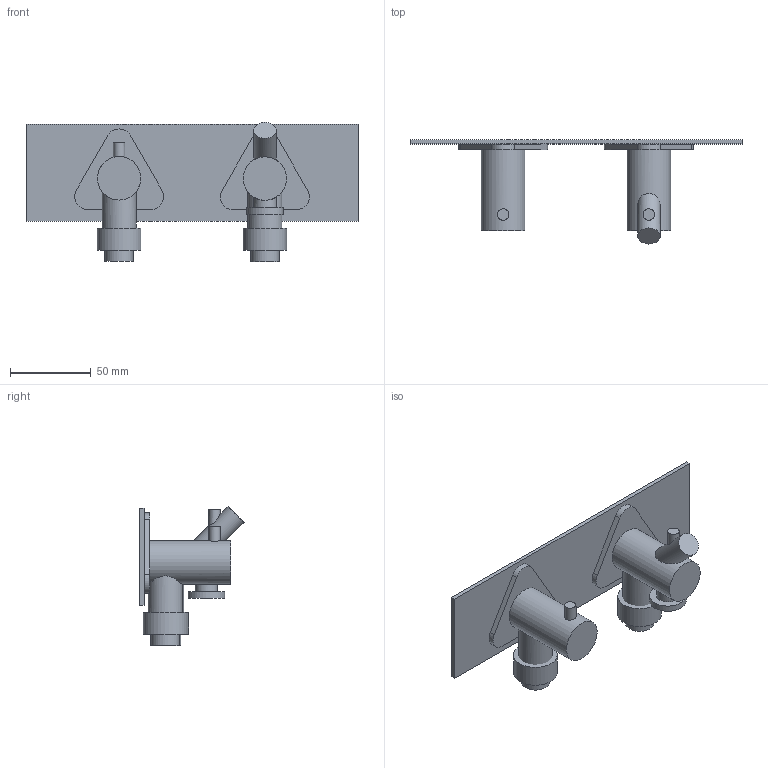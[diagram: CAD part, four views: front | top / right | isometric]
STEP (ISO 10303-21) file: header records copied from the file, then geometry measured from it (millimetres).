
FILE_DESCRIPTION(('STEP AP214'),'1');
FILE_NAME('Instaset_7876.STP','2025-09-23T13:17:28',(' '),(' '),'Spatial InterOp 3D',' ',' ');
FILE_SCHEMA(('AUTOMOTIVE_DESIGN { 1 0 10303 214 1 1 1 1 }'));
Length unit declared in the file: millimetre
Products named in the file (1): Quader
Bounding box: 205 x 64.27 x 85.98 mm (x, y, z)
Volume: 142281.9 mm3; surface area: 54608.6 mm2
Topology: 7 solids, 7 shells, 53 faces, 101 edges, 68 vertices
Faces by surface type: plane 34, cylinder 19
Full cylindrical faces by diameter (mm): 7 x2, 13.867 x1, 14 x1, 17.5 x2, 21 x2, 22.622 x1, 26.818 x2, 27 x2
Entity records: 1690 total; most frequent: CARTESIAN_POINT 594, DIRECTION 229, ORIENTED_EDGE 160, AXIS2_PLACEMENT_3D 95, EDGE_CURVE 80, EDGE_LOOP 72, VERTEX_POINT 60, ADVANCED_FACE 53
